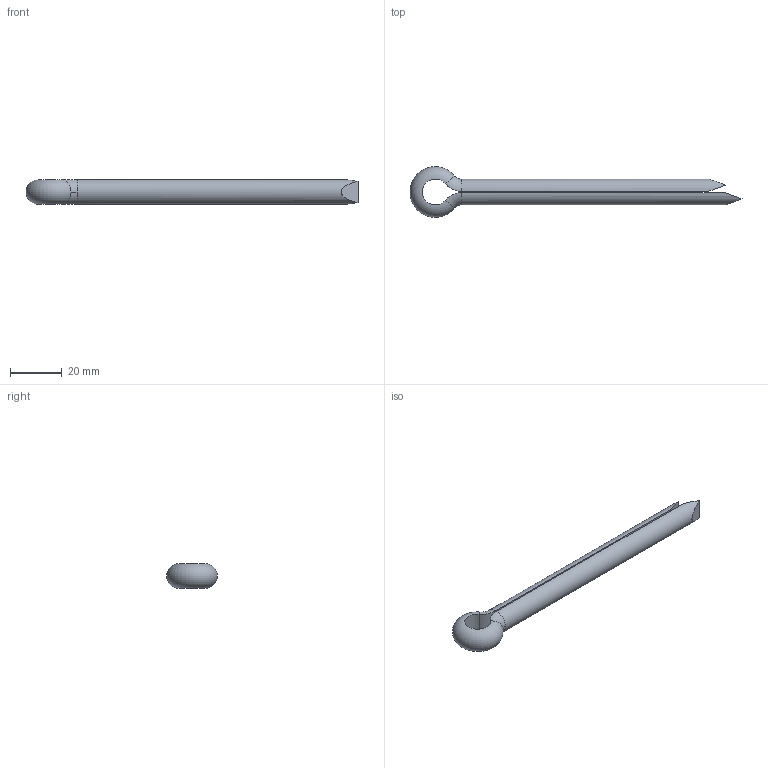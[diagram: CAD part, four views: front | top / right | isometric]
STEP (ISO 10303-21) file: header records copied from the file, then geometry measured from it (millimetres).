
FILE_DESCRIPTION (( 'STEP AP203' ), '1' );
FILE_NAME ('65674.0100.step', '2014-01-07T16:36:47', ( 'User' ), ( '' ), 'SwSTEP 2.0', 'SolidWorks 2009', '' );
FILE_SCHEMA (( 'CONFIG_CONTROL_DESIGN' ));
Length unit declared in the file: millimetre
Products named in the file (1): 65674.0100
Bounding box: 128.01 x 19.48 x 9.5 mm (x, y, z)
Volume: 8827.2 mm3; surface area: 6187 mm2
Topology: 1 solids, 1 shells, 16 faces, 34 edges, 20 vertices
Faces by surface type: plane 6, torus 5, cylinder 5
Entity records: 507 total; most frequent: CARTESIAN_POINT 89, DIRECTION 78, ORIENTED_EDGE 68, EDGE_CURVE 34, AXIS2_PLACEMENT_3D 33, VERTEX_POINT 20, CIRCLE 16, ADVANCED_FACE 16
